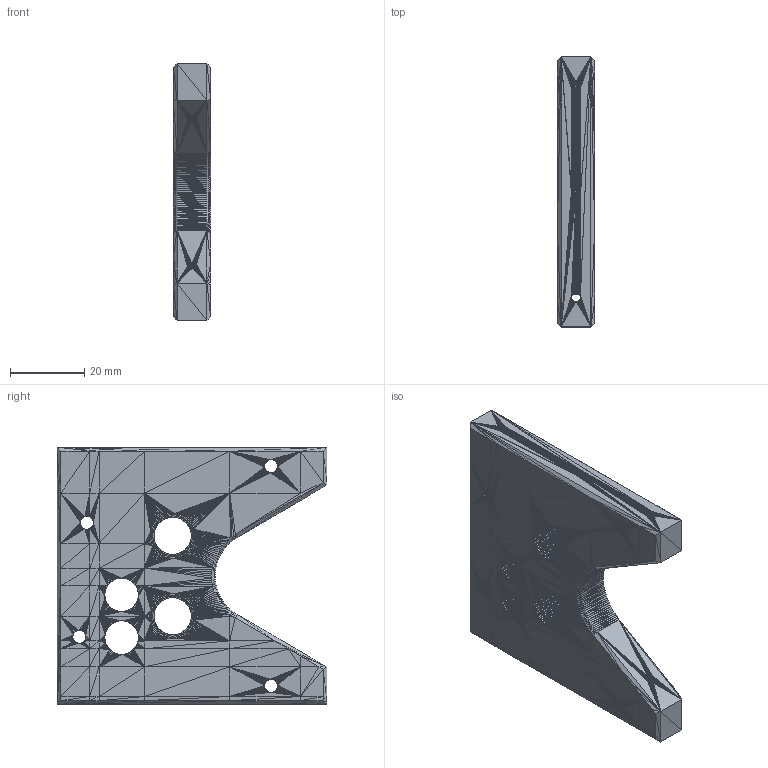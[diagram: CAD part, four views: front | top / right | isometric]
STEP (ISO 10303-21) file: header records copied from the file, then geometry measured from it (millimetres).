
FILE_DESCRIPTION((''),'2;1');
FILE_NAME('Gearbox_Front_x2', '2025-12-07T12:03:51', (''), (''), 'ImageToStl.com STEP Converter','', '');
FILE_SCHEMA(('AUTOMOTIVE_DESIGN_CC2'));
Length unit declared in the file: metre
Products named in the file (1): product0
Bounding box: 10 x 72.5 x 69 mm (x, y, z)
Surface area: 12629.9 mm2 (no closed solid volume)
Topology: 0 solids, 13714 shells, 13714 faces, 41142 edges, 6839 vertices
Faces by surface type: plane 13714
Entity records: 315414 total; most frequent: DIRECTION 68572, ORIENTED_EDGE 41142, EDGE_CURVE 41142, LINE 41142, VECTOR 41142, AXIS2_PLACEMENT_3D 13715, FACE_SURFACE 13714, PLANE 13714
